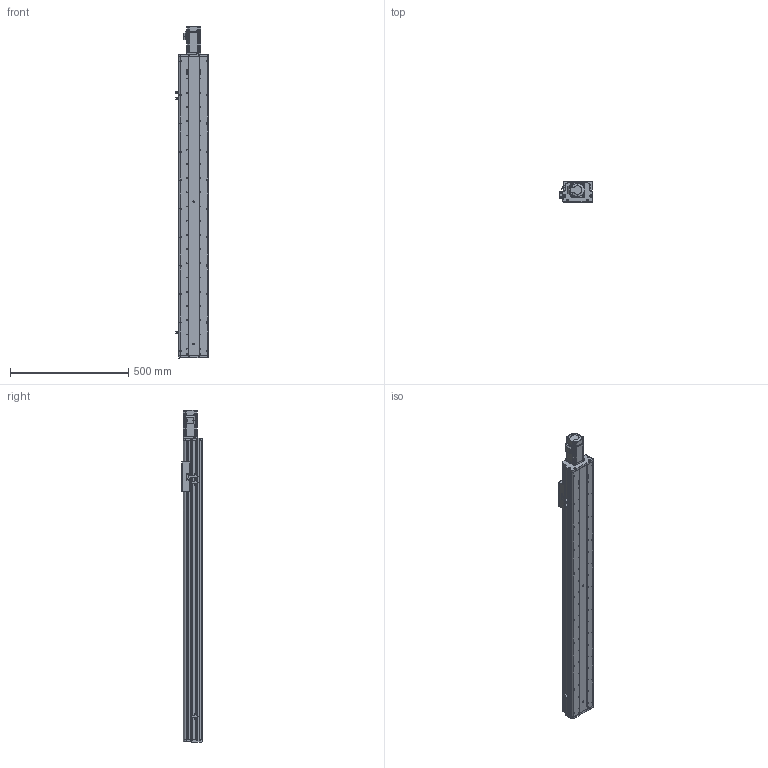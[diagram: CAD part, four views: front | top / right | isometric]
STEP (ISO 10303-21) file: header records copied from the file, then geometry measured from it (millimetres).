
FILE_DESCRIPTION (( 'STEP AP214' ), '1' );
FILE_NAME ('KSD125S-S1000-MN-CM.STEP', '2017-08-07T06:22:12', ( '微软用户' ), ( '微软中国' ), 'SwSTEP 2.0', 'SolidWorks 2014', '' );
FILE_SCHEMA (( 'AUTOMOTIVE_DESIGN' ));
Length unit declared in the file: millimetre
Products named in the file (12): MHMD042G1CA_2_03; 拸萇儂釱滅袉菜; 覜茼え68遵圉猾敕; U倰嫖萇假蚾璃; U倰嫖萇EEㄜSX672; KSD125-賑雄釱1; CS-34X32-10X14; 125-帣傷啣1; KSD125S-S1000-MN-CM; KSD125S-1000行程丝杆防尘盖-直连不带电机座; KSD125S-1000行程丝杆底板-直连不带电机座; 125宽模组 - 直连不带电机座电机安装板
Assembly tree (15 placements, depth 2):
  KSD125S-S1000-MN-CM
    125-帣傷啣1
    CS-34X32-10X14
    KSD125-賑雄釱1
    U倰嫖萇EEㄜSX672  x3
    U倰嫖萇假蚾璃  x3
    覜茼え68遵圉猾敕
    拸萇儂釱滅袉菜
    MHMD042G1CA_2_03
    125宽模组 - 直连不带电机座电机安装板
    KSD125S-1000行程丝杆底板-直连不带电机座
    KSD125S-1000行程丝杆防尘盖-直连不带电机座
Bounding box: 138.7 x 86 x 1401.5 mm (x, y, z)
Volume: 3986030.3 mm3; surface area: 1301037.2 mm2
Topology: 14 solids, 17 shells, 1522 faces, 4413 edges, 2905 vertices
Faces by surface type: cylinder 784, plane 625, cone 91, bspline 22
Entity records: 54042 total; most frequent: CARTESIAN_POINT 11460, DIRECTION 7681, ORIENTED_EDGE 7334, EDGE_CURVE 3745, AXIS2_PLACEMENT_3D 2840, VERTEX_POINT 2497, VECTOR 2001, LINE 2001
